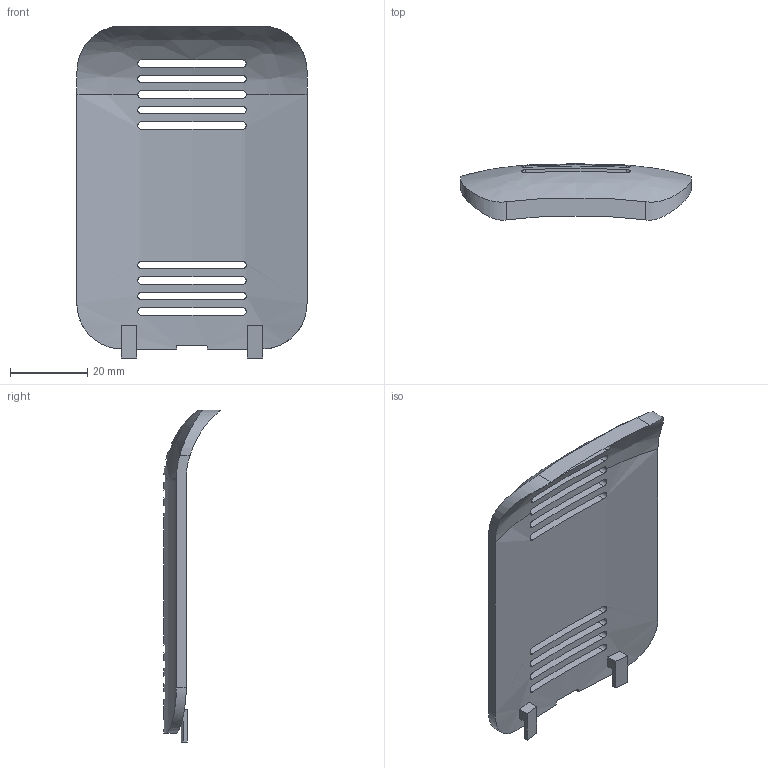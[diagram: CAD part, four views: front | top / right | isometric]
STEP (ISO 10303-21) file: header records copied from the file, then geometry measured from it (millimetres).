
FILE_DESCRIPTION(('Open CASCADE Model'),'2;1');
FILE_NAME('Open CASCADE Shape Model','2026-11-01T16:31:48',('Author'),( 'Open CASCADE'),'Open CASCADE STEP processor 8.0','build123d', 'Unknown');
FILE_SCHEMA(('AUTOMOTIVE_DESIGN { 1 0 10303 214 1 1 1 1 }'));
Products named in the file (1): COMPOUND
Bounding box: 59.4 x 14.58 x 85.7 mm (x, y, z)
Volume: 11040.8 mm3; surface area: 11388.5 mm2
Topology: 1 solids, 1 shells, 112 faces, 313 edges, 209 vertices
Faces by surface type: plane 64, cylinder 24, extrusion 13, offset 10, bspline 1
Entity records: 39380 total; most frequent: CARTESIAN_POINT 34279, B_SPLINE_CURVE_WITH_KNOTS 659, ORIENTED_EDGE 626, PCURVE 626, DEFINITIONAL_REPRESENTATION 626, DIRECTION 500, VECTOR 322, EDGE_CURVE 313
